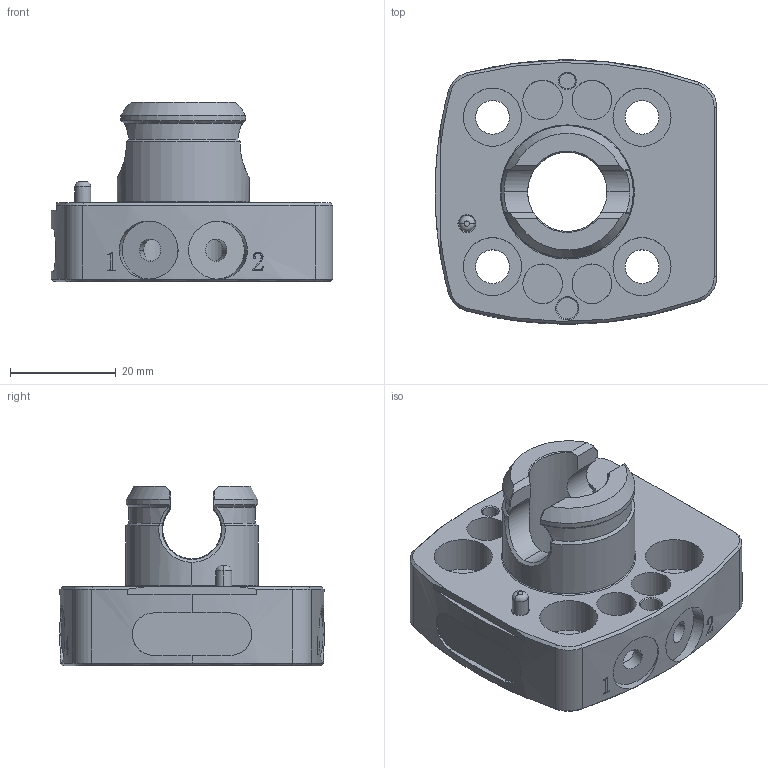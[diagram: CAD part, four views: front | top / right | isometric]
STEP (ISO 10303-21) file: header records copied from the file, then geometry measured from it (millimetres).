
FILE_DESCRIPTION (( 'STEP AP203' ), '1' );
FILE_NAME ('QC-09G.STEP', '2025-01-06T12:00:41', ( 'Windows User' ), ( 'P R C' ), 'SwSTEP 2.0', 'SolidWorks 2018', '' );
FILE_SCHEMA (( 'CONFIG_CONTROL_DESIGN' ));
Length unit declared in the file: millimetre
Products named in the file (1): QC-09G
Bounding box: 53.3 x 49.99 x 34 mm (x, y, z)
Surface area: 13321.6 mm2 (no closed solid volume)
Topology: 0 solids, 1 shells, 263 faces, 684 edges, 436 vertices
Faces by surface type: cylinder 85, plane 74, bspline 55, cone 45, torus 4
Entity records: 16612 total; most frequent: CARTESIAN_POINT 10583, ORIENTED_EDGE 1344, DIRECTION 1061, EDGE_CURVE 676, VERTEX_POINT 436, AXIS2_PLACEMENT_3D 430, EDGE_LOOP 303, ADVANCED_FACE 263
